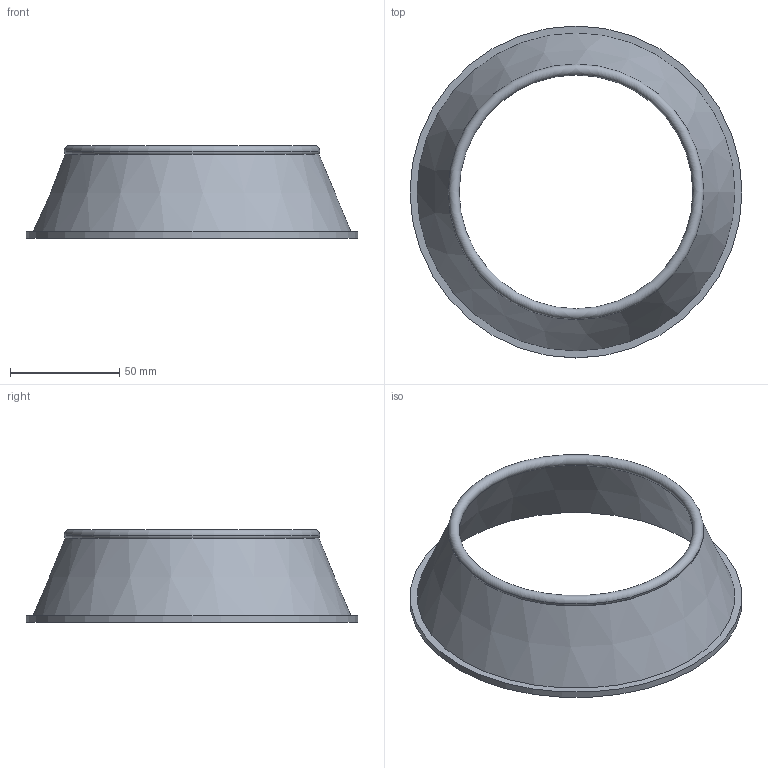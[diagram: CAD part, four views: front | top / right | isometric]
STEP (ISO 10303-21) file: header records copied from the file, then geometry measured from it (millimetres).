
FILE_DESCRIPTION(('Open CASCADE Model'),'2;1');
FILE_NAME('Open CASCADE Shape Model','2026-10-27T17:14:29',('Author'),( 'Open CASCADE'),'Open CASCADE STEP processor 8.0','build123d', 'Unknown');
FILE_SCHEMA(('AUTOMOTIVE_DESIGN { 1 0 10303 214 1 1 1 1 }'));
Length unit declared in the file: millimetre
Products named in the file (1): COMPOUND
Bounding box: 152 x 152 x 42.5 mm (x, y, z)
Volume: 57014.5 mm3; surface area: 41790.7 mm2
Topology: 1 solids, 1 shells, 7 faces, 12 edges, 7 vertices
Faces by surface type: torus 2, cone 2, plane 2, cylinder 1
Full cylindrical faces by diameter (mm): 152 x1
Entity records: 341 total; most frequent: DIRECTION 61, CARTESIAN_POINT 51, ORIENTED_EDGE 24, PCURVE 24, DEFINITIONAL_REPRESENTATION 24, LINE 23, VECTOR 23, AXIS2_PLACEMENT_3D 17
